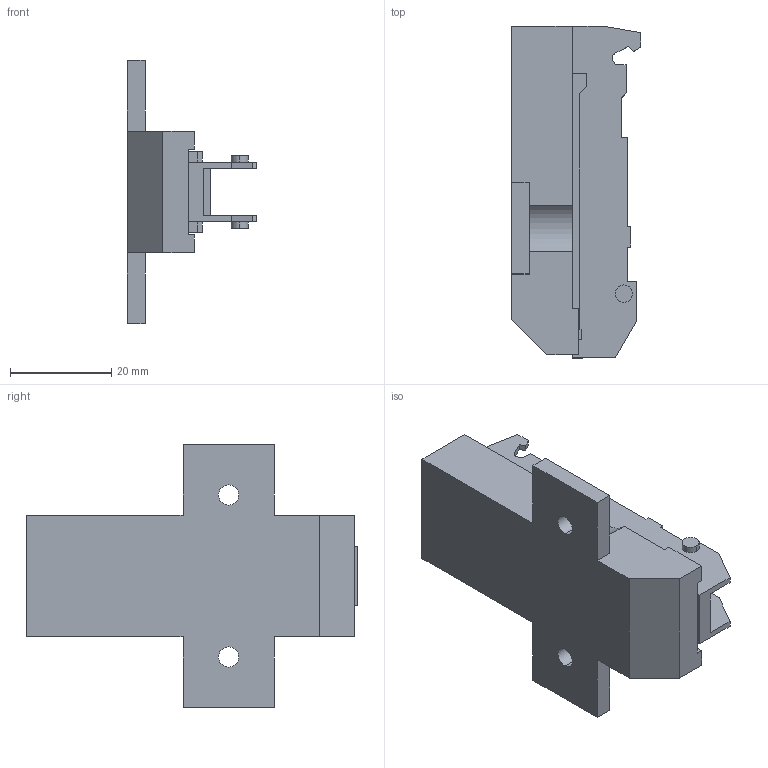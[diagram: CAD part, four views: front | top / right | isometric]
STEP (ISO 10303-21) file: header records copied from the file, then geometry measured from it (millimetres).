
FILE_DESCRIPTION (( 'STEP AP214' ), '1' );
FILE_NAME ('1D Kreuzmontageplatte_37_32_H15.STEP', '2011-08-18T14:02:54', ( '' ), ( '' ), 'SwSTEP 2.0', 'SolidWorks 2011', '' );
FILE_SCHEMA (( 'AUTOMOTIVE_DESIGN' ));
Length unit declared in the file: millimetre
Products named in the file (1): 1D Kreuzmontageplatte_37_32_H15
Bounding box: 25.5 x 65.55 x 52 mm (x, y, z)
Volume: 23799 mm3; surface area: 9297.1 mm2
Topology: 1 solids, 1 shells, 101 faces, 289 edges, 192 vertices
Faces by surface type: plane 89, cylinder 12
Entity records: 3293 total; most frequent: CARTESIAN_POINT 583, ORIENTED_EDGE 578, DIRECTION 517, EDGE_CURVE 289, VECTOR 265, LINE 265, VERTEX_POINT 192, AXIS2_PLACEMENT_3D 126
